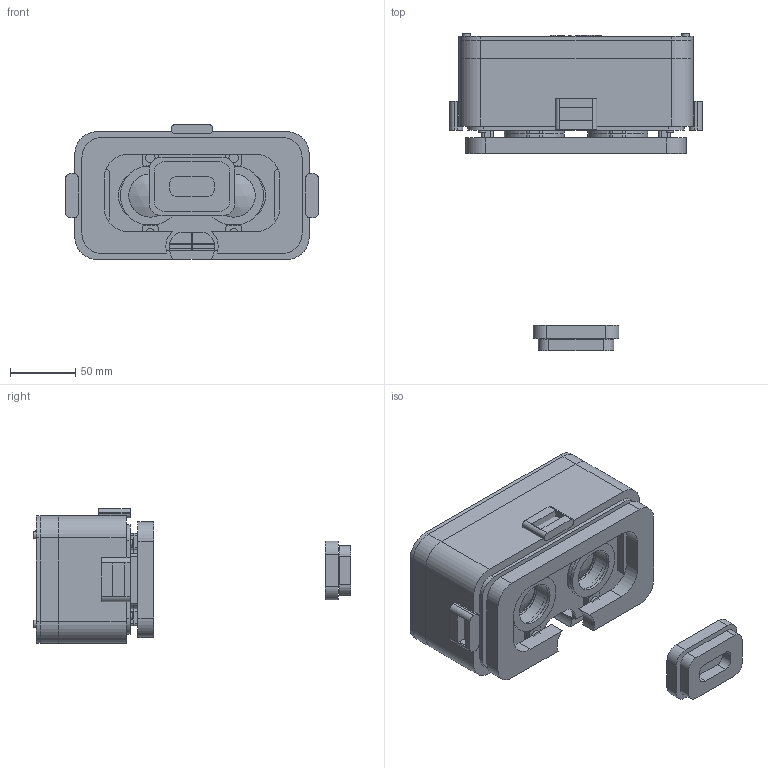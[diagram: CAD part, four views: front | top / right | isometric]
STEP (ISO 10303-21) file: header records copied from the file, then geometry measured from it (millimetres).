
FILE_DESCRIPTION(('Open CASCADE Model'),'2;1');
FILE_NAME('Open CASCADE Shape Model','2026-09-14T12:39:04',('Author'),( 'Open CASCADE'),'Open CASCADE STEP processor 7.9','Open CASCADE 7.9' ,'Unknown');
FILE_SCHEMA(('AUTOMOTIVE_DESIGN { 1 0 10303 214 1 1 1 1 }'));
Length unit declared in the file: millimetre
Products named in the file (76): cybr_visor_m1; 01_optical_tunnel; 02_binocular_septum; 03_IPD_bridge; 04_focus_spacer_0; 05_bridge_screw_0; 04_focus_spacer_1; 05_bridge_screw_1; 04_focus_spacer_2; 05_bridge_screw_2; 04_focus_spacer_3; 05_bridge_screw_3; 10_L_sliding_barrel; 11_L_lens; 12_L_rim_front; 13_L_rim_rear; 14_L_retaining_ring; 15_L_retainer_sleeve; 16_L_IPD_thumb_screw_0; 17_L_IPD_nut_0; 16_L_IPD_thumb_screw_1; 17_L_IPD_nut_1; 10_R_sliding_barrel; 11_R_lens; 12_R_rim_front; 13_R_rim_rear; 14_R_retaining_ring; 15_R_retainer_sleeve; 16_R_IPD_thumb_screw_0; 17_R_IPD_nut_0; 16_R_IPD_thumb_screw_1; 17_R_IPD_nut_1; 20_removable_face_cushion; 21_cushion_hook_loop_0; 21_cushion_hook_loop_1; 30_phone_cradle; 31_screen_bezel_stop; 32_side_pad_-1; 33_lower_upper_pad_-1; 32_side_pad_1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
Assembly tree (75 placements, depth 2):
  cybr_visor_m1
    01_optical_tunnel
    02_binocular_septum
    03_IPD_bridge
    04_focus_spacer_0
    05_bridge_screw_0
    04_focus_spacer_1
    05_bridge_screw_1
    04_focus_spacer_2
    05_bridge_screw_2
    04_focus_spacer_3
    05_bridge_screw_3
    10_L_sliding_barrel
    11_L_lens
    12_L_rim_front
    13_L_rim_rear
    14_L_retaining_ring
    15_L_retainer_sleeve
    16_L_IPD_thumb_screw_0
    17_L_IPD_nut_0
    16_L_IPD_thumb_screw_1
    17_L_IPD_nut_1
    10_R_sliding_barrel
    11_R_lens
    12_R_rim_front
    13_R_rim_rear
    14_R_retaining_ring
    15_R_retainer_sleeve
    16_R_IPD_thumb_screw_0
    17_R_IPD_nut_0
    16_R_IPD_thumb_screw_1
    17_R_IPD_nut_1
    20_removable_face_cushion
    21_cushion_hook_loop_0
    21_cushion_hook_loop_1
    30_phone_cradle
    31_screen_bezel_stop
    32_side_pad_-1
    33_lower_upper_pad_-1
    32_side_pad_1
    33_lower_upper_pad_1
    40_ventilated_phone_cover
    41_phone_retention_pad_-1
    41_phone_retention_pad_1
    42_cover_M3_screw_0
    42_cover_M3_screw_1
    42_cover_M3_screw_2
    42_cover_M3_screw_3
    50_S25_Ultra_body_envelope
    51_active_display_envelope
    52_camera_keepout_0_0
    52_camera_keepout_0_1
    52_camera_keepout_1_0
    52_camera_keepout_1_1
    60_side_strap_anchor_-1
    60_side_strap_anchor_1
    61_top_strap_anchor
    64_rear_strap_adjuster
    65_occipital_pad
    70_IPD_tick_-1_58
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Bounding box: 194 x 243.9 x 103.5 mm (x, y, z)
Volume: 614360.5 mm3; surface area: 294704.9 mm2
Topology: 81 solids, 81 shells, 966 faces, 2305 edges, 1528 vertices
Faces by surface type: plane 576, cylinder 342, extrusion 44, sphere 4
Full cylindrical faces by diameter (mm): 1.6 x4, 2 x4, 2.9 x12, 3 x4, 3.3 x24, 5.5 x4, 5.6 x4, 6.4 x4, 7.2 x4, 9 x4, 11 x4, 33.2 x12, 34 x2, 34.4 x4, 34.5 x4, 34.6 x4, 40 x2
Entity records: 60505 total; most frequent: CARTESIAN_POINT 11717, DIRECTION 8866, VECTOR 4727, LINE 4683, ORIENTED_EDGE 4610, PCURVE 4610, DEFINITIONAL_REPRESENTATION 4610, EDGE_CURVE 2305
